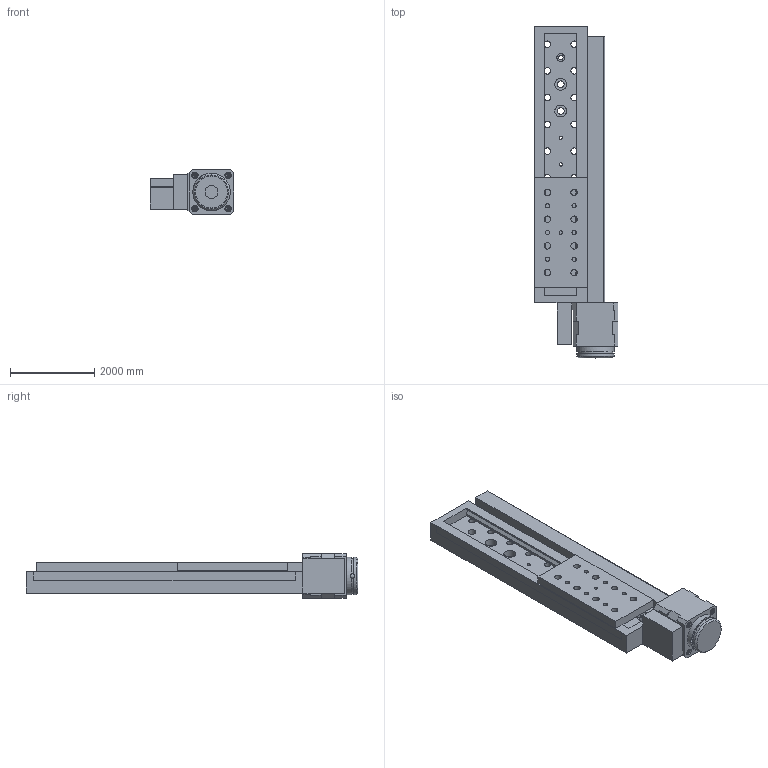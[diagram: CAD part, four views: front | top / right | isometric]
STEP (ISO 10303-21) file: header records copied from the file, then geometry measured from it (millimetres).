
FILE_DESCRIPTION((''),'2;1');
FILE_NAME('D:\Darius\Schemos\08\8MT175-150\step\8MT175-150.stp','2007-03-13T14:06:04',('Darius'),(''),'Autodesk Inventor 10','Autodesk Inventor 10','');
FILE_SCHEMA(('AUTOMOTIVE_DESIGN { 1 0 10303 214 1 1 1 1 }'));
Length unit declared in the file: inch
Products named in the file (1): 8MT175-150
Bounding box: 1993.9 x 7886.7 x 1066.8 mm (x, y, z)
Volume: 7052729792.9 mm3; surface area: 61008991.5 mm2
Topology: 1 solids, 9 shells, 396 faces, 1092 edges, 707 vertices
Faces by surface type: plane 207, cylinder 70, cone 61, bspline 34, torus 20, sphere 4
Full cylindrical faces by diameter (mm): 69.326 x4, 76.2 x11, 101.6 x6, 109.22 x2, 152.4 x28, 162.56 x4, 187.96 x1, 190.5 x1, 279.4 x4, 304.8 x1, 762 x1, 787.4 x1, 889 x2
Entity records: 12913 total; most frequent: CARTESIAN_POINT 3652, ORIENTED_EDGE 1872, DIRECTION 1834, EDGE_CURVE 936, AXIS2_PLACEMENT_3D 718, VERTEX_POINT 647, EDGE_LOOP 581, VECTOR 398
